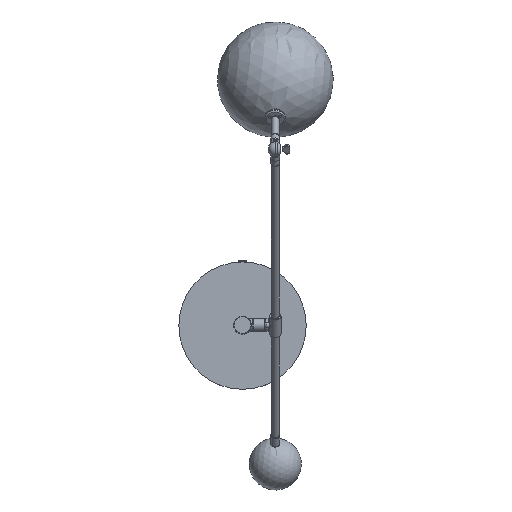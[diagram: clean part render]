
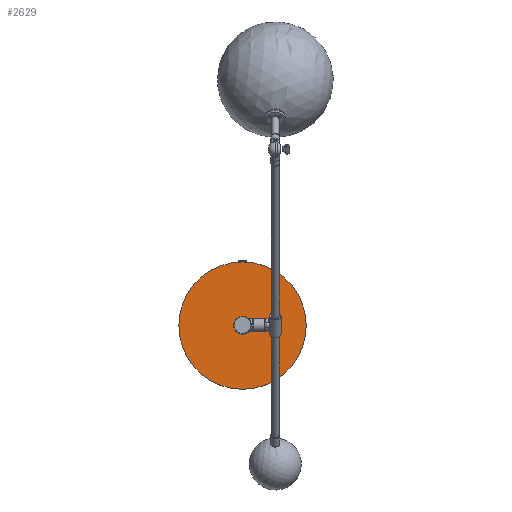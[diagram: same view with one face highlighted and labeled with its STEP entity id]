
A CAD part, top view. The second image highlights one B-rep face of the part: STEP entity #2629.
In plain terms, the highlighted planar face has unit normal (0, 0, 1).
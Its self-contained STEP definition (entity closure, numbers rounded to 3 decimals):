
#59=FACE_BOUND('',#386,.T.);
#119=PLANE('',#2860);
#208=FACE_OUTER_BOUND('',#385,.T.);
#385=EDGE_LOOP('',(#1898,#1899));
#386=EDGE_LOOP('',(#1900));
#667=CIRCLE('',#2778,110.);
#697=CIRCLE('',#2845,15.);
#705=CIRCLE('',#2861,110.);
#1043=VERTEX_POINT('',#3826);
#1045=VERTEX_POINT('',#3829);
#1120=VERTEX_POINT('',#5295);
#1305=EDGE_CURVE('',#1045,#1043,#667,.T.);
#1408=EDGE_CURVE('',#1120,#1120,#697,.T.);
#1421=EDGE_CURVE('',#1043,#1045,#705,.T.);
#1898=ORIENTED_EDGE('',*,*,#1305,.T.);
#1899=ORIENTED_EDGE('',*,*,#1421,.T.);
#1900=ORIENTED_EDGE('',*,*,#1408,.T.);
#2629=ADVANCED_FACE('',(#208,#59),#119,.F.);
#2778=AXIS2_PLACEMENT_3D('',#3830,#3094,#3095);
#2845=AXIS2_PLACEMENT_3D('',#5296,#3264,#3265);
#2860=AXIS2_PLACEMENT_3D('',#5336,#3298,#3299);
#2861=AXIS2_PLACEMENT_3D('',#5337,#3300,#3301);
#3094=DIRECTION('center_axis',(0.,0.,1.));
#3095=DIRECTION('ref_axis',(-1.,0.,0.));
#3264=DIRECTION('center_axis',(0.,0.,-1.));
#3265=DIRECTION('ref_axis',(-1.,0.,0.));
#3298=DIRECTION('center_axis',(0.,0.,-1.));
#3299=DIRECTION('ref_axis',(1.,0.,0.));
#3300=DIRECTION('center_axis',(0.,0.,1.));
#3301=DIRECTION('ref_axis',(-1.,0.,0.));
#3826=CARTESIAN_POINT('',(0.,110.,35.5));
#3829=CARTESIAN_POINT('',(110.,0.,35.5));
#3830=CARTESIAN_POINT('Origin',(0.,0.,35.5));
#5295=CARTESIAN_POINT('',(15.,0.,35.5));
#5296=CARTESIAN_POINT('Origin',(0.,0.,35.5));
#5336=CARTESIAN_POINT('Origin',(0.,0.,35.5));
#5337=CARTESIAN_POINT('Origin',(0.,0.,35.5));
